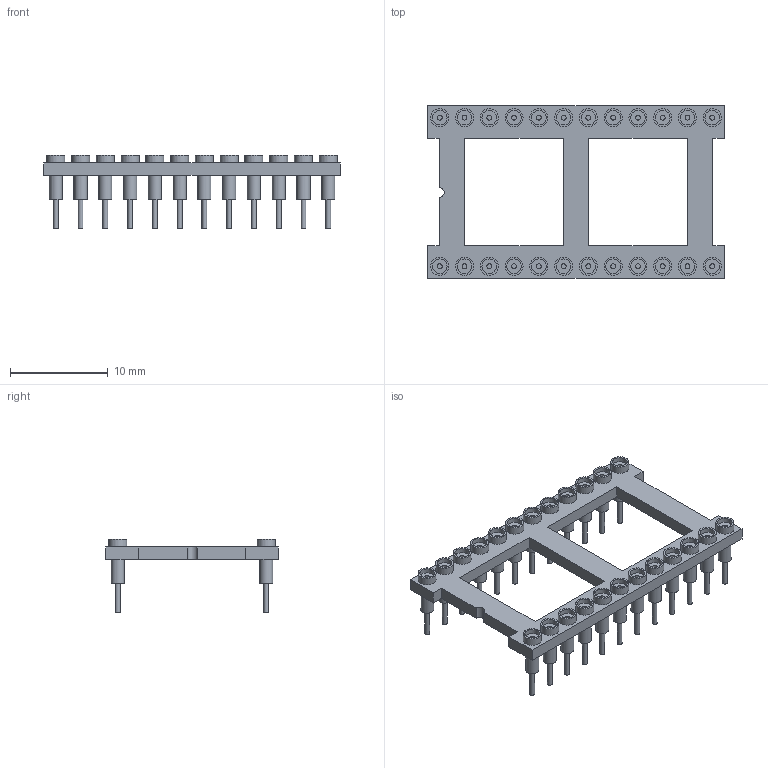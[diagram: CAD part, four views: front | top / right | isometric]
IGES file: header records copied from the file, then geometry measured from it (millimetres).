
Global section: file name: No Iges File Name specified; native system: AutoDesk Inventor R6.0; preprocessor: AutoDesk Inventor Iges Exporter R6.0; author: No Author specified; organization: No Organization specified; date: 20080103.181138; units: inch
Bounding box: 30.45 x 17.7 x 7.55 mm (x, y, z)
Surface area: 1704.1 mm2 (no closed solid volume)
Topology: 0 solids, 0 shells, 288 faces, 828 edges, 684 vertices
Faces by surface type: plane 119, bspline 96, revolution 73
